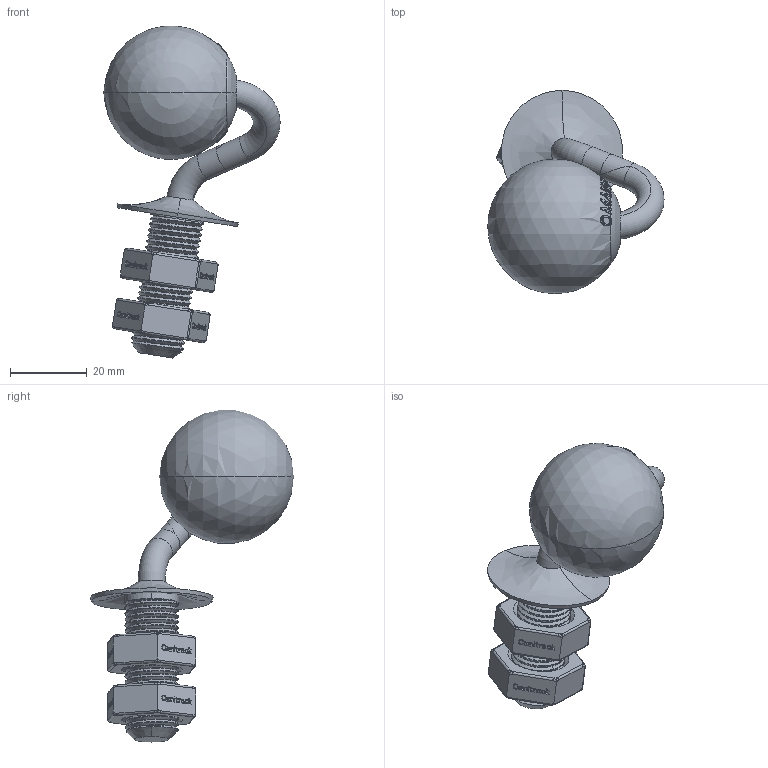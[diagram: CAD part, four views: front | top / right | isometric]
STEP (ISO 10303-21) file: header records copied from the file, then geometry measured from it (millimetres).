
FILE_DESCRIPTION((''),'2;1');
FILE_NAME('OMNIFLOAT35-75R_ASM','2014-03-31T',('David'),(''),'PRO/ENGINEER BY PARAMETRIC TECHNOLOGY CORPORATION, 2013320','PRO/ENGINEER BY PARAMETRIC TECHNOLOGY CORPORATION, 2013320','');
FILE_SCHEMA(('CONFIG_CONTROL_DESIGN'));
Products named in the file (9): PRTOMNIFLOATBALL; PRTOMNIFLOATCAP; PRTOMNIFLOATTUBE; PRTOMNIFLOATTUBE2; ASMOMNIFLOATTUBE_ASM; PRTOMNIFLOATRUBBER; PRTOMNIFLOATBOLT; PRTOMNIFLOATNUT; OMNIFLOAT35-75R_ASM
Assembly tree (9 placements, depth 3):
  OMNIFLOAT35-75R_ASM
    PRTOMNIFLOATBALL
    PRTOMNIFLOATCAP
    ASMOMNIFLOATTUBE_ASM
      PRTOMNIFLOATTUBE
      PRTOMNIFLOATTUBE2
    PRTOMNIFLOATRUBBER
    PRTOMNIFLOATBOLT
    PRTOMNIFLOATNUT  x2
Bounding box: 45.93 x 52.98 x 86.46 mm (x, y, z)
Volume: 33852.1 mm3; surface area: 14794.8 mm2
Topology: 8 solids, 8 shells, 2024 faces, 5643 edges, 3709 vertices
Faces by surface type: plane 1810, bspline 90, cylinder 54, sphere 28, torus 28, cone 14
Entity records: 56611 total; most frequent: CARTESIAN_POINT 25959, ORIENTED_EDGE 6568, DIRECTION 6090, EDGE_CURVE 3284, VECTOR 2526, LINE 2526, VERTEX_POINT 2155, AXIS2_PLACEMENT_3D 1782
